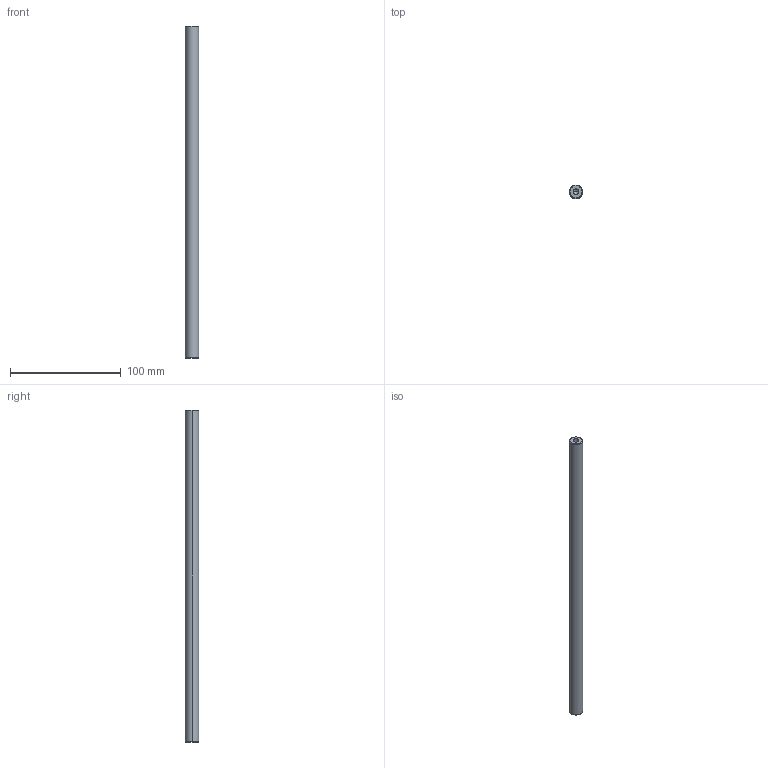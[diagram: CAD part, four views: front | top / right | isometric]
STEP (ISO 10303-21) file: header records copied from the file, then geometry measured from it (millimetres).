
FILE_DESCRIPTION((''),'2;1');
FILE_NAME('15301148_MST 45-30.stp','2014-07-22T11:20:10',(''),(''),'Mechanical Desktop 2009','Mechanical Desktop 2009',', , ');
FILE_SCHEMA(('CONFIG_CONTROL_DESIGN'));
Length unit declared in the file: millimetre
Products named in the file (2): 15301148; TEIL1
Assembly tree (1 placements, depth 2):
  15301148
    TEIL1
Bounding box: 12 x 12 x 300 mm (x, y, z)
Volume: 33492.2 mm3; surface area: 11840.4 mm2
Topology: 1 solids, 1 shells, 12 faces, 24 edges, 13 vertices
Faces by surface type: cone 6, cylinder 4, plane 2
Entity records: 407 total; most frequent: DIRECTION 62, CARTESIAN_POINT 49, ORIENTED_EDGE 44, AXIS2_PLACEMENT_3D 26, EDGE_CURVE 22, VERTEX_POINT 13, EDGE_LOOP 13, CIRCLE 12
